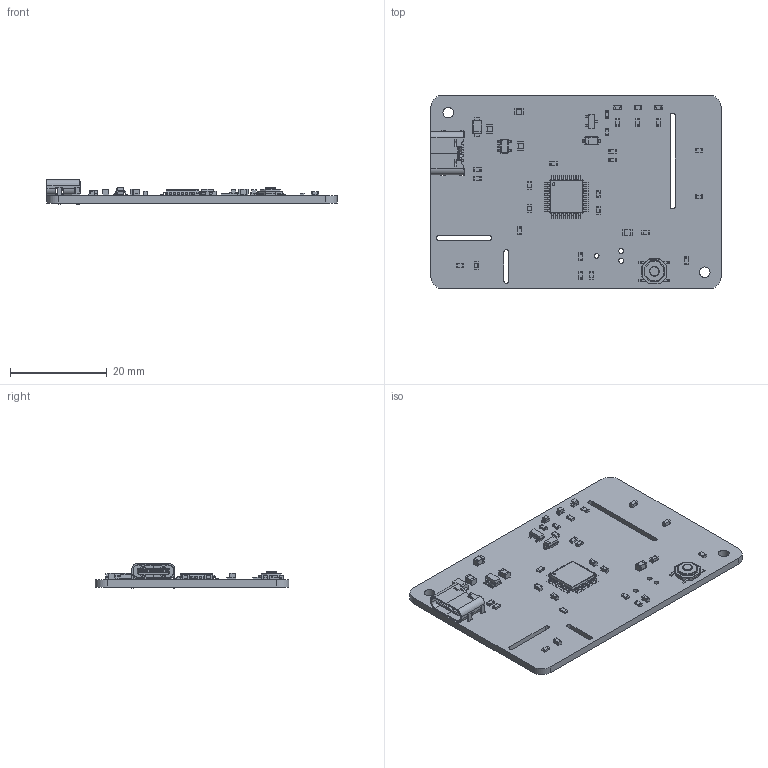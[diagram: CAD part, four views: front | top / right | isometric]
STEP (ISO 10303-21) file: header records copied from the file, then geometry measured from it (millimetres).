
FILE_DESCRIPTION(('KiCad electronic assembly'),'2;1');
FILE_NAME('canary.step','2026-10-14T04:53:27',('Pcbnew'),('Kicad'), 'Open CASCADE STEP processor 7.8','KiCad to STEP converter','Unknown' );
FILE_SCHEMA(('AUTOMOTIVE_DESIGN { 1 0 10303 214 1 1 1 1 }'));
Length unit declared in the file: millimetre
Products named in the file (24): canary 1; D_SOD-123; SOT-23-5; C_0603_1608Metric; R_0603_1608Metric; LED_0603_1608Metric; TQFP-32_7x7mm_P0.8mm; SOT-23; SW_SPST_TL3342; C_0805_2012Metric; USB_C_Receptacle_GCT_USB4125-xx-x-0190_6P_TopMnt_Horizontal; USB_C_Receptacle_GCT_USB4125-xx-x_6P_TopMnt_Horizontal; D_SMF; canary_PCB
Assembly tree (50 placements, depth 3):
  canary 1
    D_SOD-123
      D_SOD-123
    SOT-23-5
      SOT-23-5
    C_0603_1608Metric  x9
      C_0603_1608Metric
    R_0603_1608Metric  x15
      R_0603_1608Metric
    LED_0603_1608Metric  x3
      LED_0603_1608Metric
    TQFP-32_7x7mm_P0.8mm
      TQFP-32_7x7mm_P0.8mm
    SOT-23
      SOT-23
    SW_SPST_TL3342
      SW_SPST_TL3342
    C_0805_2012Metric  x4
      C_0805_2012Metric
    USB_C_Receptacle_GCT_USB4125-xx-x-0190_6P_TopMnt_Horizontal
      USB_C_Receptacle_GCT_USB4125-xx-x_6P_TopMnt_Horizontal
    D_SMF
      D_SMF
    canary_PCB
Bounding box: 60 x 40 x 5.16 mm (x, y, z)
Volume: 3761.7 mm3; surface area: 6182.1 mm2
Topology: 54 solids, 55 shells, 2462 faces, 6423 edges, 4110 vertices
Faces by surface type: plane 1715, cylinder 646, bspline 98, cone 2, torus 1
Full cylindrical faces by diameter (mm): 0.8 x2, 0.991 x3, 2 x1, 2.2 x2
Entity records: 65605 total; most frequent: CARTESIAN_POINT 10490, ORIENTED_EDGE 8841, DIRECTION 8304, EDGE_CURVE 4413, LINE 3448, VECTOR 3448, VERTEX_POINT 2794, AXIS2_PLACEMENT_3D 2428
